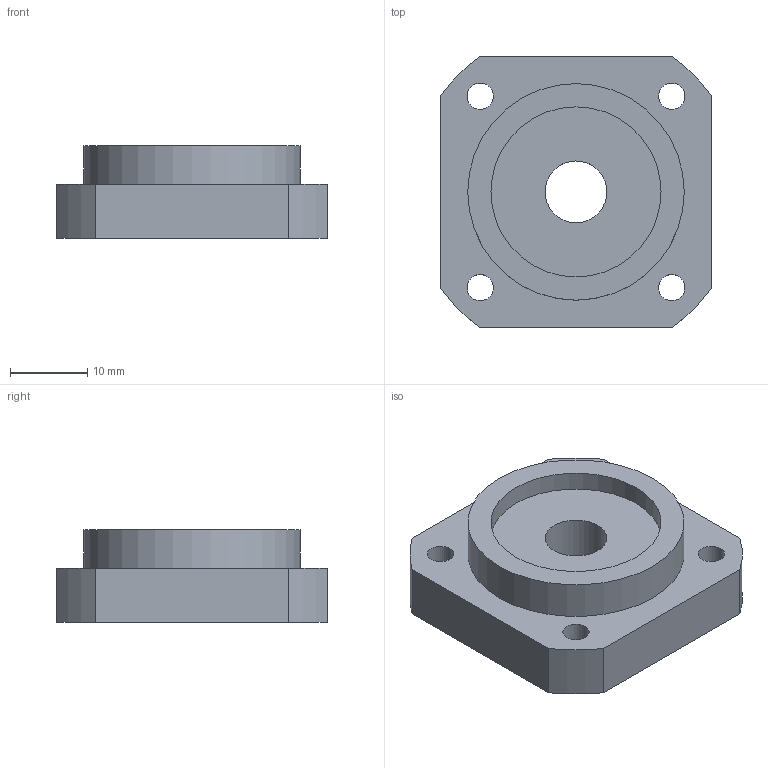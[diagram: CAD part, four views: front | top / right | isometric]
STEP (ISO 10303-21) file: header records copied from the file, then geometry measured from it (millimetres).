
FILE_DESCRIPTION(/* description */ (''),/* implementation_level */ '2;1');
FILE_NAME(/* name */ 'C:\Users\tenki620635\Desktop\官網\圖面\軸承座\3D\setp檔\FF10.stp',/* time_stamp */ '2020-11-23T14:54:34+08:00',/* author */ ('tenki620635'),/* organization */ (''),/* preprocessor_version */ 'ST-DEVELOPER v15.2',/* originating_system */ 'Autodesk Inventor 2014',/* authorisation */ '');
FILE_SCHEMA (('AUTOMOTIVE_DESIGN { 1 0 10303 214 3 1 1 }'));
Length unit declared in the file: millimetre
Products named in the file (1): FF10
Bounding box: 35 x 35 x 12 mm (x, y, z)
Volume: 8448.9 mm3; surface area: 4502.5 mm2
Topology: 1 solids, 1 shells, 29 faces, 60 edges, 40 vertices
Faces by surface type: cylinder 16, plane 13
Full cylindrical faces by diameter (mm): 3.4 x4, 6.5 x4, 8 x1, 22 x2, 28 x1
Entity records: 767 total; most frequent: DIRECTION 140, CARTESIAN_POINT 118, ORIENTED_EDGE 96, AXIS2_PLACEMENT_3D 62, EDGE_LOOP 58, EDGE_CURVE 48, VERTEX_POINT 40, FACE_BOUND 34
